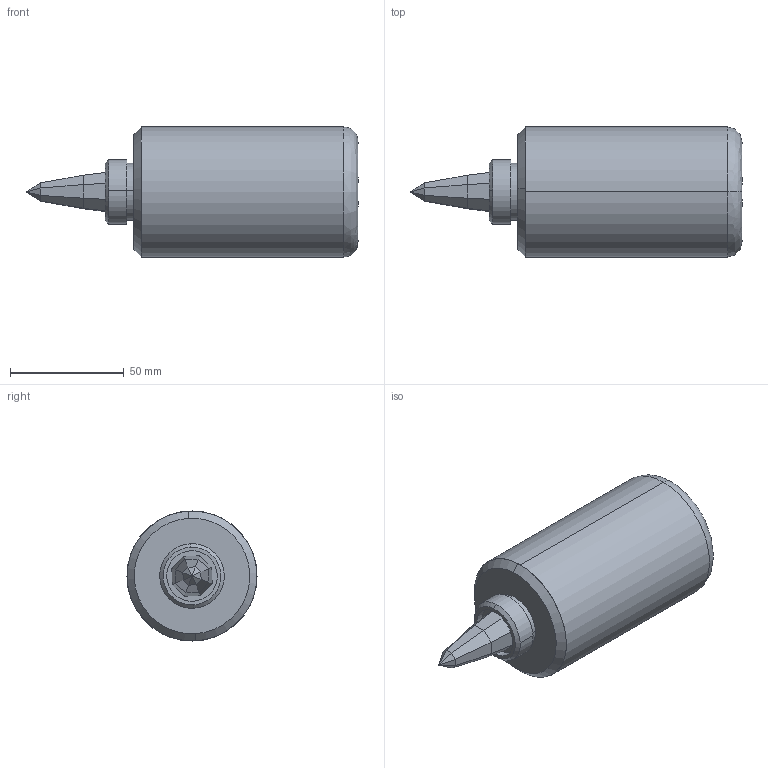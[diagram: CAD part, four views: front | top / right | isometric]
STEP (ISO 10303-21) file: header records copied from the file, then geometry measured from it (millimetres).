
FILE_DESCRIPTION (( 'STEP AP203' ), '1' );
FILE_NAME ('SP-003F.STEP', '2008-08-12T07:17:41', ( 'ANDREW' ), ( 'SIMONDS INC' ), 'SwSTEP 2.0', 'SolidWorks 2008', '' );
FILE_SCHEMA (( 'CONFIG_CONTROL_DESIGN' ));
Length unit declared in the file: inch
Products named in the file (4): 14-003; 1-003F; SP-003F; 25-H
Assembly tree (3 placements, depth 2):
  SP-003F
    25-H
    14-003
    1-003F
Bounding box: 145.85 x 57.15 x 57.15 mm (x, y, z)
Volume: 144229.3 mm3; surface area: 44935.2 mm2
Topology: 3 solids, 3 shells, 145 faces, 334 edges, 202 vertices
Faces by surface type: cone 78, plane 47, cylinder 18, bspline 2
Entity records: 4534 total; most frequent: DIRECTION 780, CARTESIAN_POINT 723, ORIENTED_EDGE 668, EDGE_CURVE 334, AXIS2_PLACEMENT_3D 299, VERTEX_POINT 202, LINE 182, VECTOR 182
